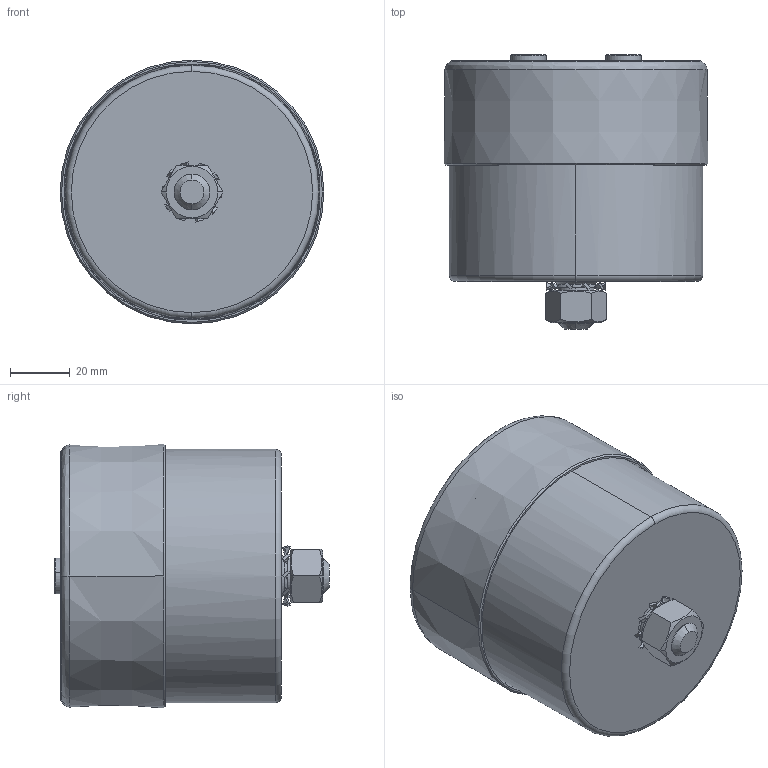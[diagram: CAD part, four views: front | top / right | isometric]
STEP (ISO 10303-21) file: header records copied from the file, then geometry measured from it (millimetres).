
FILE_DESCRIPTION (( 'STEP AP203' ), '1' );
FILE_NAME ('B25620Bx_85x74_76.STEP', '2021-06-30T06:10:14', ( '' ), ( '' ), 'SwSTEP 2.0', 'SolidWorks 2017', '' );
FILE_SCHEMA (( 'CONFIG_CONTROL_DESIGN' ));
Length unit declared in the file: millimetre
Products named in the file (1): B25620Bx_85x74_76
Bounding box: 88.5 x 92 x 88.5 mm (x, y, z)
Volume: 67702.3 mm3; surface area: 88823.3 mm2
Topology: 4 solids, 7 shells, 401 faces, 1027 edges, 642 vertices
Faces by surface type: bspline 124, cylinder 114, plane 97, cone 52, torus 14
Entity records: 15845 total; most frequent: CARTESIAN_POINT 6858, ORIENTED_EDGE 2026, DIRECTION 1621, EDGE_CURVE 1013, AXIS2_PLACEMENT_3D 642, VERTEX_POINT 642, EDGE_LOOP 443, ADVANCED_FACE 401
